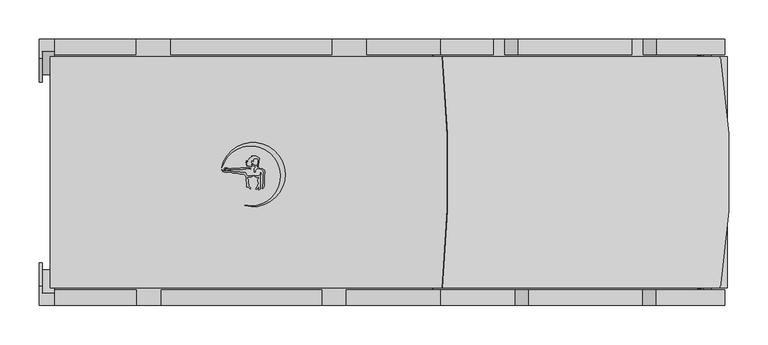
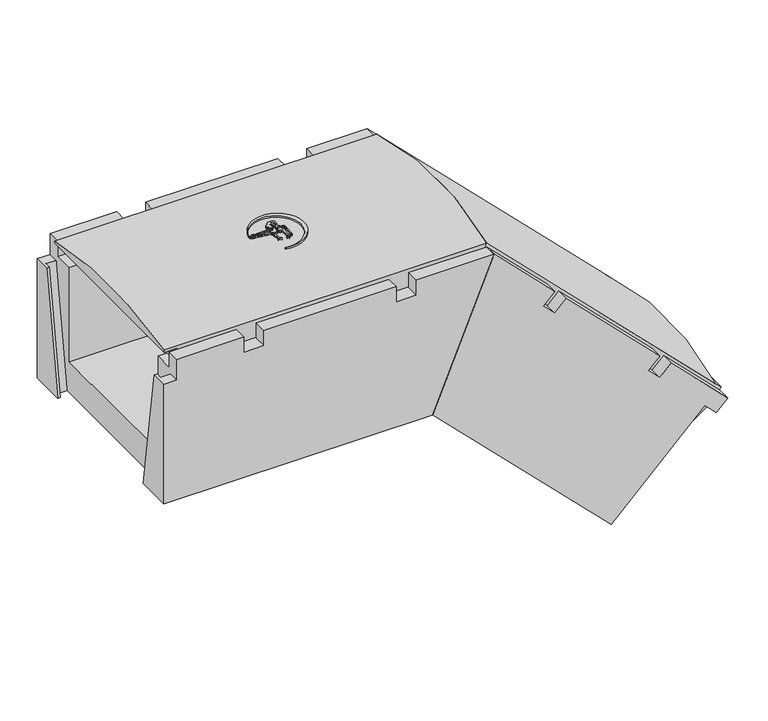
"""IFC4 building model written with IfcOpenShell, lengths in millimetres: cable carrier fitting geometry, Evotray type 2 vertical bend down : Evotray type 2 vertical bend down."""

from ifc_helpers import new_model, si_unit, point, frame, frame_2d, origin, place, context, project, spatial, polyline, circle_curve, ellipse_curve, trimmed, segment, composite_curve, outline, extrude, faceted_brep, source, transform, mapped, element, save
from ifc_brep_helpers import plane_surface, cylinder_surface, advanced_brep


def cable_carrier_fitting_a4ebeed9(model_context):
    return source(origin(), model_context, "Body", "SolidModel", [
        extrude(outline(composite_curve([segment(polyline([(-105.1987673, 5.907559), (-103.7730763, 5.0844359), (-104.4820077, 4.6751342), (-107.0469375, 4.6751342), (-109.5064308, 2.2156409), (-109.5064308, 0.6319729), (-110.5639447, 0.3486129), (-110.8953119, 1.5852919), (-110.5730905, 2.7878385), (-110.5730905, 5.0146536), (-109.1065498, 6.4811943), (-109.5064308, 7.1738084), (-110.5730905, 7.7896447), (-111.4313624, 8.2851682), (-112.4244859, 9.2782918), (-112.4244859, 10.5283487), (-111.6366917, 10.0735155), (-110.5730905, 9.0099142), (-109.5064308, 8.394078), (-107.1936661, 8.394078), (-106.5617675, 9.0259766), (-106.5617675, 10.6343813), (-106.1559104, 11.3373462), (-105.9163405, 12.2314336), (-105.9163405, 16.3268685), (-106.5617675, 16.9722955), (-110.5730905, 17.3232408), (-111.3212546, 16.8912881), (-111.7531031, 16.1433045), (-111.9754965, 15.313321), (-112.2482129, 13.7666695), (-112.8042347, 14.3226912), (-113.3698905, 14.8883471), (-114.3304254, 14.8883471), (-114.8048648, 14.0665939), (-114.8048648, 13.2416885), (-114.4028177, 12.5453225), (-113.675123, 11.8176278), (-114.0717623, 10.3373496), (-114.4092623, 9.0777826), (-114.1064549, 7.3604762), (-114.907248, 7.2192748), (-116.6376932, 7.6829462), (-117.8844025, 8.2642963), (-118.6376597, 8.6155459), (-120.2371082, 8.33352), (-119.7695498, 9.1433549), (-118.1127288, 9.7463885)]), True, "CONTINUOUS"), segment(trimmed(circle_curve(frame_2d((-118.6788564, 9.4744491)), 0.6280537), [point((-118.1127288, 9.7463885))], [point((-118.8344386, 10.0829273))], True, "CARTESIAN"), True, "CONTINUOUS"), segment(polyline([(-118.8344386, 10.0829273), (-120.7814537, 10.0829273), (-120.2232755, 10.6411054), (-119.3724958, 10.9507639), (-118.5540563, 11.2486515)]), True, "CONTINUOUS"), segment(trimmed(circle_curve(frame_2d((-119.2923812, 11.2486515)), 0.7383249), [point((-118.5540563, 11.2486515))], [point((-119.2923812, 11.9869764))], True, "CARTESIAN"), True, "CONTINUOUS"), segment(polyline([(-119.2923812, 11.9869764), (-121.0001288, 11.9869764), (-121.3916504, 12.6651117), (-119.5730583, 12.9857785), (-118.2767203, 13.457607), (-118.897473, 14.0783597), (-120.8606925, 14.0783597), (-120.30811, 14.6309421), (-119.2782773, 15.2255163), (-118.603553, 15.9002407), (-117.8807357, 16.3175594), (-116.9057237, 16.8804829)]), True, "CONTINUOUS"), segment(trimmed(circle_curve(frame_2d((-117.1167091, 17.2459203)), 0.4219708), [point((-116.9057237, 16.8804829))], [point((-117.3276945, 17.6113577))], True, "CARTESIAN"), True, "CONTINUOUS"), segment(polyline([(-117.3276945, 17.6113577), (-116.7102978, 18.2287544), (-115.4076278, 18.7028875), (-114.4125713, 19.2773836), (-113.2810347, 19.4769041), (-113.6348604, 20.4490324), (-108.6348604, 20.4490324), (-107.6206866, 19.9761154), (-106.4988316, 19.6755153), (-105.4843855, 19.0898245), (-104.3757091, 17.9811481), (-104.3757091, 15.4151328), (-104.8646262, 14.5683035), (-104.8646262, 11.8362675), (-105.3536612, 10.7875287), (-105.760463, 10.0829273), (-105.760463, 8.2341629), (-106.5617675, 7.7715296), (-107.3950459, 7.6246001)]), True, "CONTINUOUS"), segment(trimmed(circle_curve(frame_2d((-106.3420944, 7.3424626)), 1.0900956), [point((-107.3950459, 7.6246001))], [point((-106.6242319, 6.2895111))], True, "CARTESIAN"), True, "CONTINUOUS"), segment(polyline([(-106.6242319, 6.2895111), (-105.1987673, 5.907559)]), True, "CONTINUOUS")], self_intersect=False)), frame((0.0, 0.0, 229.0645802), z_axis=(0.0, 0.0, 1.0), x_axis=(1.0, 0.0, 0.0)), (0.0, 0.0, 1.0), 22.5),
        extrude(outline(polyline([(-100.6420581, 3.0525563), (-102.5647021, 4.1625953), (-101.375462, 4.4812513), (-100.0006066, 3.9808448), (-97.8744575, 2.753312), (-97.462808, 1.2170154), (-97.462808, -1.5561738), (-97.8811889, -3.9289297), (-98.2073261, -13.2682758), (-98.2073261, -16.1231727), (-98.766974, -19.297094), (-99.9259981, -20.4561181), (-100.8234867, -20.4561181), (-100.1486125, -18.6019165), (-99.8396569, -16.8497423), (-99.3251997, -13.9321102), (-99.3251997, -2.6926455), (-98.883565, -0.1880111), (-99.4260419, 1.8365401), (-100.6420581, 3.0525563)])), frame((0.0, 0.0, 229.0645802), z_axis=(0.0, 0.0, 1.0), x_axis=(1.0, 0.0, 0.0)), (0.0, 0.0, 1.0), 22.5),
        extrude(outline(composite_curve([segment(polyline([(-108.070307, -4.5554644), (-106.0881056, -4.5554644), (-104.6198413, -4.2965698), (-103.3145593, -2.9912878), (-102.1344504, -0.4605362), (-101.6534984, -1.7819409), (-102.2762062, -3.117342), (-102.9468137, -4.5554644), (-102.9468137, -10.5136603), (-103.3751928, -12.943119), (-103.3751928, -21.4242609), (-104.8238515, -22.8729196), (-105.3965887, -22.3001824), (-104.7178687, -20.5578122), (-104.4597233, -19.0937972)]), True, "CONTINUOUS"), segment(trimmed(circle_curve(frame_2d((-104.8743713, -19.0937972)), 0.414648), [point((-104.4597233, -19.0937972))], [point((-105.2890194, -19.0937972))], True, "CARTESIAN"), True, "CONTINUOUS"), segment(polyline([(-105.2890194, -19.0937972), (-106.0547081, -19.8594859), (-107.3215546, -21.3692548), (-107.9770637, -22.0247639), (-108.7693849, -21.6552984), (-106.605165, -18.4467105), (-106.2992553, -16.7118106), (-105.4571975, -14.9060116), (-105.19999, -13.4473154), (-105.9884987, -12.0815782), (-105.9884987, -9.315031), (-104.6653502, -7.4454743)]), True, "CONTINUOUS"), segment(trimmed(circle_curve(frame_2d((-105.0024552, -7.2068937)), 0.4129897), [point((-104.6653502, -7.4454743))], [point((-105.2410358, -6.8697887))], True, "CARTESIAN"), True, "CONTINUOUS"), segment(polyline([(-105.2410358, -6.8697887), (-107.2448508, -6.516462), (-108.6887473, -5.843162), (-110.508748, -4.9944818), (-110.508748, -4.1255015), (-108.070307, -4.5554644)]), True, "CONTINUOUS")], self_intersect=False)), frame((0.0, 0.0, 229.0645802), z_axis=(0.0, 0.0, 1.0), x_axis=(1.0, 0.0, 0.0)), (0.0, 0.0, 1.0), 22.5),
        extrude(outline(composite_curve([segment(polyline([(-150.4819029, 2.2537302), (-148.7462291, 1.4443722), (-144.5597552, 1.4443722), (-143.4890341, 1.731271), (-142.1624965, 1.731271), (-140.4413877, 1.4443722), (-138.4350656, 0.9067798), (-137.2818775, 0.597784), (-131.5899708, 0.597784), (-128.9734749, 0.1616293), (-127.6459123, -0.19409), (-122.03167, -0.19409)]), True, "CONTINUOUS"), segment(trimmed(circle_curve(frame_2d((-113.1781038, 2.7115165)), 9.3181642), [point((-122.03167, -0.19409))], [point((-118.6774022, -4.8108435))], True, "CARTESIAN"), True, "CONTINUOUS"), segment(polyline([(-118.6774022, -4.8108435), (-115.6256174, -4.8108435), (-113.5910388, -4.632841), (-112.4520349, -4.1017147), (-112.7095548, -5.0627921), (-113.6536491, -5.6078652), (-114.612336, -5.9567987), (-117.847041, -5.8438403), (-119.0357356, -6.2764898), (-119.44473, -7.153581), (-119.3696494, -8.0117562), (-118.8907652, -8.8412079), (-118.1701597, -9.5618134), (-118.1701597, -11.3180259), (-118.53546, -12.3216801), (-118.3911934, -13.970655), (-117.8861011, -15.8556852), (-117.737982, -17.5486944), (-115.3666469, -20.2766033), (-115.5753239, -21.4600691), (-118.1701597, -18.8652332), (-119.1329913, -19.1232231), (-120.5361675, -18.8758053), (-120.2606072, -18.1187094), (-120.2606072, -15.8446539), (-120.0850033, -14.8487551), (-120.2606072, -12.8415943), (-120.6362696, -11.8094702), (-120.6362696, -9.9842873), (-121.0826053, -9.0271173), (-121.0826053, -6.6493678), (-121.3310455, -5.7221762), (-121.7830159, -4.9393406), (-122.2317276, -4.1621491), (-122.84617, -3.5477067), (-123.2800213, -2.6173096), (-126.8809595, -2.4915621), (-129.2251115, -2.1008055), (-131.2577048, -1.5561738), (-134.5993244, -1.2049554), (-136.6789374, -1.2049554), (-138.021172, -0.8453047), (-139.5447671, -0.4370587), (-140.8880204, 0.1893106), (-141.8824091, 0.1893106), (-144.5338495, 0.1893106), (-145.6460936, -0.1087143), (-147.5093755, 0.0871245), (-148.9984504, 0.3353447), (-150.6717579, 1.1156208), (-151.6476843, 2.0915471), (-152.2867674, 2.7306302), (-152.2867674, 3.5175099), (-150.4819029, 2.2537302)]), True, "CONTINUOUS")], self_intersect=False)), frame((0.0, 0.0, 229.0645802), z_axis=(0.0, 0.0, 1.0), x_axis=(1.0, 0.0, 0.0)), (0.0, 0.0, 1.0), 22.5),
        extrude(outline(composite_curve([segment(polyline([(-147.9796703, 3.7977023), (-146.956356, 3.2068915), (-148.6840165, 3.7265624), (-149.014163, 4.6441261), (-148.1758386, 5.4824506), (-145.30302, 5.4824506), (-144.318583, 5.0847122), (-143.2280942, 4.6441261), (-142.4299007, 4.1832889), (-141.1696706, 4.1832889), (-140.3486455, 4.4787), (-139.4633932, 4.9898007), (-133.0496883, 4.9898007), (-132.1941137, 4.6441261), (-131.1237116, 4.6441261), (-130.1629915, 4.9898007), (-128.9838348, 4.9898007), (-128.2654957, 5.4045339), (-122.8528405, 5.4045339), (-122.0925598, 5.6780888), (-120.8504018, 5.6780888), (-120.2746333, 6.2538574), (-118.3170698, 6.2538574), (-117.0290688, 5.7334711), (-116.0171524, 5.1492409), (-115.2127113, 4.8242256)]), True, "CONTINUOUS"), segment(trimmed(circle_curve(frame_2d((-115.6200436, 4.6596527)), 0.4393221), [point((-115.2127113, 4.8242256))], [point((-115.7846166, 4.2523203))], False, "CARTESIAN"), True, "CONTINUOUS"), segment(polyline([(-115.7846166, 4.2523203), (-116.8003453, 4.6627013), (-118.112003, 4.6627013), (-119.382433, 4.8867124), (-120.1944574, 4.5945398), (-121.3374314, 4.1832889), (-124.6816293, 4.1832889), (-125.4727027, 3.7265624), (-129.0400229, 3.7265624), (-129.9228853, 3.2168416), (-139.9228853, 3.2168416), (-142.5335493, 2.9884381), (-146.222077, 4.4787), (-148.3728446, 4.4787), (-147.9796703, 3.7977023)]), True, "CONTINUOUS")], self_intersect=False)), frame((0.0, 0.0, 229.0645802), z_axis=(0.0, 0.0, 1.0), x_axis=(1.0, 0.0, 0.0)), (0.0, 0.0, 1.0), 22.5),
        extrude(outline(composite_curve([segment(trimmed(circle_curve(frame_2d((-115.3994103, -4.8721323)), 38.3616107), [point((-122.8072471, -42.511701))], [point((-152.1109456, 6.2578432))], True, "CARTESIAN"), True, "CONTINUOUS"), segment(trimmed(circle_curve(frame_2d((-112.2700096, -2.9917986)), 40.900563), [point((-152.1109456, 6.2578432))], [point((-122.8072471, -42.511701))], False, "CARTESIAN"), True, "CONTINUOUS")], self_intersect=False)), frame((0.0, 0.0, 229.0645802), z_axis=(0.0, 0.0, 1.0), x_axis=(1.0, 0.0, 0.0)), (0.0, 0.0, 1.0), 22.5),
        advanced_brep(
        [(116.9461761, -147.5, 205.0), (471.8757211, -147.5, -149.9295449), (492.3648071, -147.5, -129.4404589), (483.8795257, -147.5, -120.9551776), (128.9583694, -147.5, 234.0), (471.8757211, 147.5, -149.9295449), (116.9461761, 147.5, 205.0), (128.9583694, 147.5, 234.0), (483.8965363, 147.5, -120.9381669), (492.3648071, 147.5, -129.4404589)],
        [
            (0, 1),
            (1, 2),
            (2, 3),
            (3, 4),
            (4, 0),
            (5, 6),
            (6, 7),
            (7, 8),
            (8, 9),
            (9, 5),
            (1, 5),
            (9, 2),
            (6, 0),
            (4, 7, ellipse_curve(frame((-134.5305718, 0.0, -402.1185755), z_axis=(-0.9238795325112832, 0.0, 0.3826834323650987), x_axis=(-0.38268343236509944, 0.0, -0.9238795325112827)), 706.7972104, 652.9954763)),
            (8, 3),
            (8, 3, circle_curve(frame((34.0927779, 0.0, -570.7419253), z_axis=(0.707106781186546, 0.0, -0.707106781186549), x_axis=(0.0, -1.0, 0.0)), 652.9954763)),
        ],
        [
            plane_surface(frame((471.8757211, -147.5, -149.9295449), z_axis=(0.0, -1.0, 0.0), x_axis=(0.7071067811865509, 0.0, 0.7071067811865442))),
            plane_surface(frame((471.8757211, 147.5, -149.9295449), z_axis=(0.0, 1.0, 0.0), x_axis=(-0.7071067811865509, 0.0, -0.7071067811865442))),
            plane_surface(frame((471.8757211, -147.5, -149.9295449), z_axis=(0.7071067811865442, 0.0, -0.7071067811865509), x_axis=(0.0, 1.0, 0.0))),
            plane_surface(frame((136.0, -147.5, 251.0), z_axis=(-0.9238795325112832, 0.0, 0.3826834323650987), x_axis=(0.0, 1.0, 0.0))),
            plane_surface(frame((116.9461761, -147.5, 205.0), z_axis=(-0.7071067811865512, 0.0, -0.7071067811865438), x_axis=(0.0, 1.0, 0.0))),
            plane_surface(frame((492.3648071, -147.5, -129.4404589), z_axis=(0.7071067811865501, 0.0, 0.7071067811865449), x_axis=(-0.7071067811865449, 0.0, 0.7071067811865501))),
            plane_surface(frame((483.8795257, -147.5, -120.9551776), z_axis=(0.707106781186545, 0.0, -0.70710678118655), x_axis=(0.70710678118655, 0.0, 0.707106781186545))),
            cylinder_surface(frame((-319.0880296, 0.0, -217.5611177), z_axis=(0.707106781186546, 0.0, -0.707106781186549), x_axis=(0.0, -1.0, 0.0)), 652.9954763),
        ],
        [
            (0, [[1, 2, 3, 4, 5]]),
            (1, [[6, 7, 8, 9, 10]]),
            (2, [[11, -10, 12, -2]]),
            (3, [[13, -5, 14, -7]]),
            (4, [[-1, -13, -6, -11]]),
            (5, [[15, -3, -12, -9]]),
            (6, [[-15, 16]]),
            (7, [[-4, -16, -8, -14]]),
        ],
    ),
        advanced_brep(
        [(-351.0, -147.5, 205.0), (116.9461761, -147.5, 205.0), (128.9583694, -147.5, 234.0), (-371.0, -147.5, 234.0), (-371.0, -147.5, 230.0), (-351.0, -147.5, 230.0), (116.9461761, 147.5, 205.0), (-351.0, 147.5, 205.0), (-351.0, 147.5, 230.0), (-371.0, 147.5, 230.0), (-371.0, 147.5, 234.0), (128.9583694, 147.5, 234.0)],
        [
            (0, 1),
            (1, 2),
            (2, 3),
            (3, 4),
            (4, 5),
            (5, 0),
            (6, 7),
            (7, 8),
            (8, 9),
            (9, 10),
            (10, 11),
            (11, 6),
            (9, 4),
            (3, 10, circle_curve(frame((-371.0, 0.0, -402.1185755), z_axis=(-1.0, 0.0, 0.0), x_axis=(0.0, -1.0, 0.0)), 652.9954763)),
            (6, 1),
            (0, 7),
            (11, 2, ellipse_curve(frame((-134.5305718, 0.0, -402.1185755), z_axis=(0.923879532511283, 0.0, -0.38268343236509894), x_axis=(0.38268343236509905, 0.0, 0.923879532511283)), 706.7972104, 652.9954763)),
            (8, 5),
        ],
        [
            plane_surface(frame((-371.0, -147.5, 205.0), z_axis=(0.0, -1.0, 0.0), x_axis=(0.0, 0.0, -1.0))),
            plane_surface(frame((-371.0, 147.5, 205.0), z_axis=(0.0, 1.0, 0.0), x_axis=(0.0, 0.0, 1.0))),
            plane_surface(frame((-371.0, -147.5, 251.0), z_axis=(-1.0, 0.0, 0.0), x_axis=(0.0, 1.0, 0.0))),
            plane_surface(frame((-371.0, -147.5, 205.0), z_axis=(0.0, 0.0, -1.0), x_axis=(0.0, 1.0, 0.0))),
            plane_surface(frame((116.9461761, -147.5, 205.0), z_axis=(0.923879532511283, 0.0, -0.38268343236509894), x_axis=(0.0, 1.0, 0.0))),
            plane_surface(frame((-371.0, 147.5, 230.0), z_axis=(0.0, 0.0, -1.0), x_axis=(-1.0, 0.0, 0.0))),
            plane_surface(frame((-351.0, -147.5, 230.0), z_axis=(-1.0, 0.0, 0.0), x_axis=(0.0, 0.0, -1.0))),
            cylinder_surface(frame((-371.0, 0.0, -402.1185755), z_axis=(1.0, 0.0, 0.0), x_axis=(0.0, -1.0, 0.0)), 652.9954763),
        ],
        [
            (0, [[1, 2, 3, 4, 5, 6]]),
            (1, [[7, 8, 9, 10, 11, 12]]),
            (2, [[13, -4, 14, -10]]),
            (3, [[15, -1, 16, -7]]),
            (4, [[-15, -12, 17, -2]]),
            (5, [[18, -5, -13, -9]]),
            (6, [[-18, -8, -16, -6]]),
            (7, [[-3, -17, -11, -14]]),
        ],
    ),
        faceted_brep([(127.3015152, -170.0, 230.0), (32.0323958, -170.0, 0.0), (309.2411614, -170.0, -277.2087655), (454.1980515, -170.0, -132.2518754), (471.8757211, -170.0, -149.9295449), (489.5533906, -170.0, -132.2518754), (401.8721497, -170.0, -44.5706345), (384.1944802, -170.0, -62.2483041), (366.5168107, -170.0, -44.5706345), (384.1944802, -170.0, -26.892965), (239.2375901, -170.0, 118.0639251), (221.5599205, -170.0, 100.3862556), (203.882251, -170.0, 118.0639251), (221.5599205, -170.0, 135.7415947), (32.0323958, 170.0, 0.0), (127.3015152, 170.0, 230.0), (193.9827561, 170.0, 163.3187591), (176.3050865, 170.0, 145.6410896), (208.1248917, 170.0, 113.8212844), (225.8025612, 170.0, 131.498954), (370.7594514, 170.0, -13.4579362), (353.0817818, 170.0, -31.1356057), (384.901587, 170.0, -62.9554108), (402.5792565, 170.0, -45.2777413), (489.5533906, 170.0, -132.2518754), (471.8757211, 170.0, -149.9295449), (454.1980515, 170.0, -132.2518754), (309.2411614, 170.0, -277.2087655), (471.8757211, -120.0, -149.9295449), (471.8757211, -150.0, -149.9295449), (326.9188309, -115.4, -294.8864351), (326.9188309, 115.4, -294.8864351), (471.8757211, 150.0, -149.9295449), (471.8757211, 120.0, -149.9295449), (362.27417, 120.0, -259.531096), (362.27417, -120.0, -259.531096), (489.5533906, -150.0, -132.2518754), (489.5533906, 150.0, -132.2518754), (384.1944802, -150.0, -26.892965), (239.2375901, -150.0, 118.0639251), (225.8025612, 150.0, 131.498954), (370.7594514, 150.0, -13.4579362), (401.8721497, -150.0, -44.5706345), (402.5792565, 150.0, -45.2777413), (127.3015152, -150.0, 230.0), (221.5599205, -150.0, 135.7415947), (127.3015152, 150.0, 230.0), (193.9827561, 150.0, 163.3187591), (116.9461761, -150.0, 205.0), (116.9461761, -120.0, 205.0), (52.743074, -120.0, 50.0), (52.743074, 120.0, 50.0), (116.9461761, 120.0, 205.0), (116.9461761, 150.0, 205.0), (309.2411614, 113.0, -277.2087655), (317.7264428, 113.0, -285.6940469), (317.7264428, 115.4, -285.6940469), (317.7264428, -115.4, -285.6940469), (317.7264428, -113.0, -285.6940469), (309.2411614, -113.0, -277.2087655), (462.6833329, -150.0, -140.7371568), (454.1980515, -150.0, -132.2518754), (384.1944802, -150.0, -62.2483041), (366.5168107, -150.0, -44.5706345), (221.5599205, -150.0, 100.3862556), (203.882251, -150.0, 118.0639251), (384.901587, 150.0, -62.9554108), (454.1980515, 150.0, -132.2518754), (462.6833329, 150.0, -140.7371568), (208.1248917, 150.0, 113.8212844), (353.0817818, 150.0, -31.1356057), (176.3050865, 150.0, 145.6410896), (454.1980515, -147.6, -132.2518754), (462.6833329, -147.6, -140.7371568), (462.6833329, 147.6, -140.7371568), (454.1980515, 147.6, -132.2518754)], [[[0, 1, 2, 3, 4, 5, 6, 7, 8, 9, 10, 11, 12, 13]], [[14, 15, 16, 17, 18, 19, 20, 21, 22, 23, 24, 25, 26, 27]], [[28, 29, 30, 31, 32, 33, 34, 35]], [[36, 5, 4, 29]], [[24, 37, 32, 25]], [[10, 9, 38, 39]], [[20, 19, 40, 41]], [[5, 36, 42, 6]], [[37, 24, 23, 43]], [[44, 0, 13, 45]], [[15, 46, 47, 16]], [[1, 0, 44, 48, 49, 50, 51, 52, 53, 46, 15, 14]], [[1, 14, 27, 54, 55, 56, 31, 30, 57, 58, 59, 2]], [[36, 29, 60, 61, 62, 42]], [[39, 38, 63, 64]], [[48, 44, 45, 65]], [[32, 37, 43, 66, 67, 68]], [[41, 40, 69, 70]], [[46, 53, 71, 47]], [[49, 48, 65, 12, 11, 64, 63, 8, 7, 62, 61, 72, 73, 60, 29, 28]], [[53, 52, 33, 32, 68, 74, 75, 67, 66, 22, 21, 70, 69, 18, 17, 71]], [[35, 50, 49, 28]], [[51, 34, 33, 52]], [[50, 35, 34, 51]], [[60, 29, 4, 3, 61]], [[29, 60, 57, 30]], [[32, 68, 67, 26, 25]], [[68, 32, 31, 56]], [[58, 73, 72, 59]], [[59, 72, 61, 3, 2]], [[73, 58, 57, 60]], [[54, 75, 74, 55]], [[75, 54, 27, 26, 67]], [[55, 74, 68, 56]], [[70, 21, 20, 41]], [[22, 66, 43, 23]], [[62, 7, 6, 42]], [[8, 63, 38, 9]], [[71, 17, 16, 47]], [[18, 69, 40, 19]], [[64, 11, 10, 39]], [[12, 65, 45, 13]]]),
        faceted_brep([(-385.0, -170.0, 0.0), (32.0323958, -170.0, 0.0), (127.3015152, -170.0, 230.0), (6.6963481, -170.0, 230.0), (6.6963481, -170.0, 205.0), (-24.6518259, -170.0, 205.0), (-24.6518259, -170.0, 230.0), (-229.6518259, -170.0, 230.0), (-229.6518259, -170.0, 205.0), (-261.0, -170.0, 205.0), (-261.0, -170.0, 230.0), (-365.0130369, -170.0, 230.0), (-365.0130369, -170.0, 196.0), (-385.0, -170.0, 196.0), (127.3015152, 170.0, 230.0), (32.0323958, 170.0, 0.0), (-385.0, 170.0, 0.0), (-385.0, 170.0, 196.0), (-365.0130369, 170.0, 196.0), (-365.0130369, 170.0, 230.0), (-262.0, 170.0, 230.0), (-262.0, 170.0, 205.0), (-217.0, 170.0, 205.0), (-217.0, 170.0, 230.0), (-12.0, 170.0, 230.0), (-12.0, 170.0, 205.0), (33.0, 170.0, 205.0), (33.0, 170.0, 230.0), (-24.6518259, -150.0, 230.0), (-229.6518259, -150.0, 230.0), (-217.0, 150.0, 230.0), (-12.0, 150.0, 230.0), (127.3015152, -150.0, 230.0), (6.6963481, -150.0, 230.0), (127.3015152, 150.0, 230.0), (33.0, 150.0, 230.0), (-365.0130369, -150.0, 230.0), (-261.0, -150.0, 230.0), (-365.0130369, 150.0, 230.0), (-262.0, 150.0, 230.0), (-385.0, -115.45, 0.0), (-385.0, -144.8926087, 196.0), (-385.0, 115.45, 0.0), (-385.0, 144.8926087, 196.0), (-381.0, -115.45, 0.0), (-381.0, -124.6, 0.0), (-365.0, -124.6, 0.0), (-365.0, 124.6, 0.0), (-381.0, 124.6, 0.0), (-381.0, 115.45, 0.0), (116.9461761, 150.0, 205.0), (116.9461761, 120.0, 205.0), (52.743074, 120.0, 50.0), (52.743074, -120.0, 50.0), (116.9461761, -120.0, 205.0), (116.9461761, -150.0, 205.0), (-381.0, 144.8926087, 196.0), (-381.0, -144.8926087, 196.0), (-365.0, 154.0426087, 196.0), (-381.0, 154.0426087, 196.0), (-381.0, -154.0426087, 196.0), (-365.0, -154.0426087, 196.0), (-365.0, -150.0, 205.0), (-365.0, -147.5, 205.0), (-365.0, -120.0, 205.0), (-365.0, -120.0, 50.0), (-365.0, 120.0, 50.0), (-365.0, 120.0, 205.0), (-365.0, 147.5, 205.0), (-365.0, 150.0, 205.0), (-24.6518259, -150.0, 205.0), (-229.6518259, -150.0, 205.0), (6.6963481, -150.0, 205.0), (-261.0, -150.0, 205.0), (-217.0, 150.0, 205.0), (-12.0, 150.0, 205.0), (33.0, 150.0, 205.0), (-262.0, 150.0, 205.0), (-351.0, 120.0, 205.0), (-351.0, -120.0, 205.0)], [[[0, 1, 2, 3, 4, 5, 6, 7, 8, 9, 10, 11, 12, 13]], [[14, 15, 16, 17, 18, 19, 20, 21, 22, 23, 24, 25, 26, 27]], [[7, 6, 28, 29]], [[24, 23, 30, 31]], [[2, 32, 33, 3]], [[34, 14, 27, 35]], [[36, 11, 10, 37]], [[19, 38, 39, 20]], [[40, 0, 13, 41]], [[16, 42, 43, 17]], [[1, 0, 40, 44, 45, 46, 47, 48, 49, 42, 16, 15]], [[2, 1, 15, 14, 34, 50, 51, 52, 53, 54, 55, 32]], [[42, 49, 56, 43]], [[44, 40, 41, 57]], [[48, 47, 58, 59]], [[45, 44, 57, 60]], [[49, 48, 59, 56]], [[46, 45, 60, 61]], [[47, 46, 61, 12, 11, 36, 62, 63, 64, 65, 66, 67, 68, 69, 38, 19, 18, 58]], [[12, 61, 60, 57, 41, 13]], [[58, 18, 17, 43, 56, 59]], [[29, 28, 70, 71]], [[32, 55, 72, 33]], [[62, 36, 37, 73]], [[31, 30, 74, 75]], [[50, 34, 35, 76]], [[38, 69, 77, 39]], [[51, 50, 76, 26, 25, 75, 74, 22, 21, 77, 69, 68, 67, 78]], [[55, 54, 79, 64, 63, 62, 73, 9, 8, 71, 70, 5, 4, 72]], [[53, 65, 64, 79, 54]], [[66, 52, 51, 78, 67]], [[65, 53, 52, 66]], [[77, 21, 20, 39]], [[22, 74, 30, 23]], [[9, 73, 37, 10]], [[71, 8, 7, 29]], [[75, 25, 24, 31]], [[26, 76, 35, 27]], [[5, 70, 28, 6]], [[72, 4, 3, 33]]]),
    ])


if __name__ == "__main__":
    model = new_model("IFC4")
    model_context = context("Model", 3, world=origin())
    ifc_project = project(units=[si_unit("LENGTHUNIT", "METRE", prefix="MILLI")], contexts=[model_context])
    site = spatial("IfcSite", under=ifc_project)
    building = spatial("IfcBuilding", under=site)
    placement = place(None, origin())
    cable_carrier_fitting_shape = cable_carrier_fitting_a4ebeed9(model_context)
    element("IfcCableCarrierFitting", 1, ObjectType="Evotray type 2 vertical bend down : Evotray type 2 vertical bend down", at=placement, inside=building, context=model_context, shape_type="MappedRepresentation", body=[
        mapped(cable_carrier_fitting_shape, transform((0.0, 0.0, 0.0), x_axis=(1.0, 0.0, 0.0), y_axis=(0.0, 1.0, 0.0), z_axis=(0.0, 0.0, 1.0))),
    ])
    save(model, "model.ifc")
